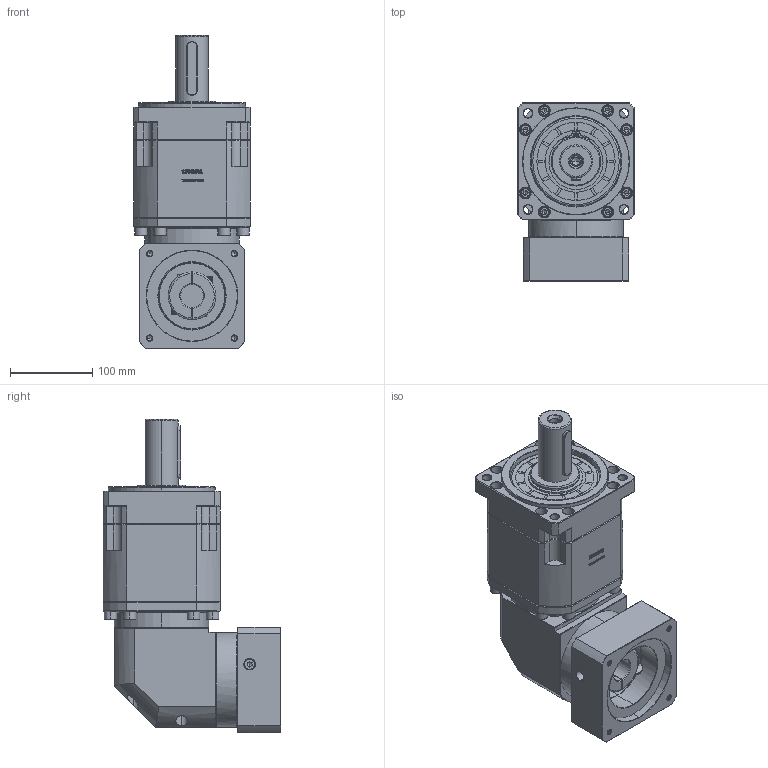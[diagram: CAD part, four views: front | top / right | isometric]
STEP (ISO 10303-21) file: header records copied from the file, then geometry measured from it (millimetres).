
FILE_DESCRIPTION (( 'STEP AP214' ), '1' );
FILE_NAME ('ZBR142A-D40-L3-28-110-145-M8.step', '2023-03-20T04:14:08', ( '' ), ( '' ), 'SwSTEP 2.0', 'SolidWorks 2016', '' );
FILE_SCHEMA (( 'AUTOMOTIVE_DESIGN' ));
Length unit declared in the file: millimetre
Products named in the file (1): ZBR142A-D40-L3-28-110-145-M8
Bounding box: 142 x 215.9 x 380.2 mm (x, y, z)
Volume: 5332346.6 mm3; surface area: 352238.1 mm2
Topology: 6 solids, 6 shells, 3193 faces, 8411 edges, 5383 vertices
Faces by surface type: plane 1653, bspline 593, cylinder 502, cone 399, torus 46
Entity records: 170749 total; most frequent: CARTESIAN_POINT 61462, ORIENTED_EDGE 16714, DIRECTION 13070, EDGE_CURVE 8357, LINE 5594, VECTOR 5594, VERTEX_POINT 5383, AXIS2_PLACEMENT_3D 3738
